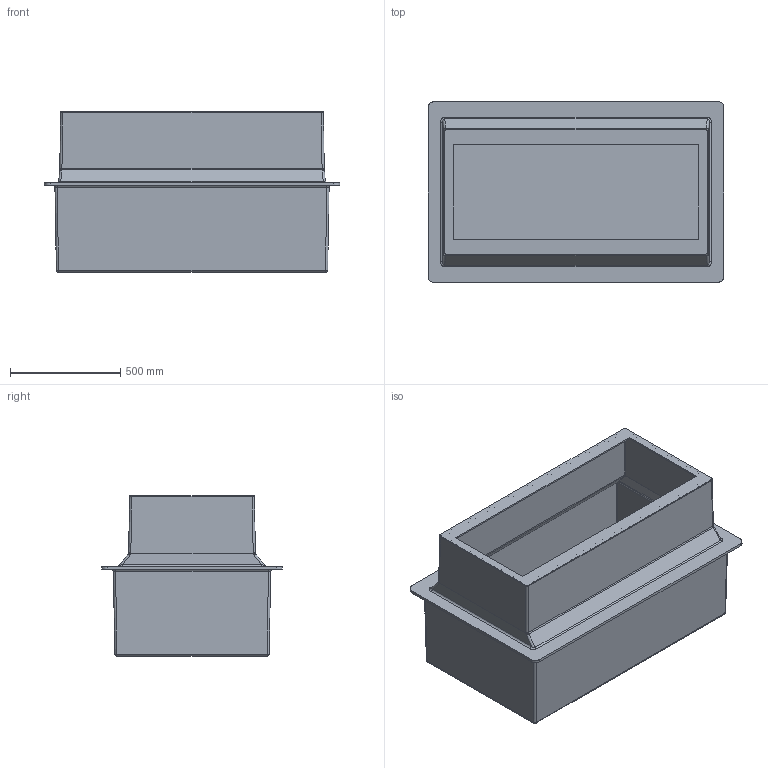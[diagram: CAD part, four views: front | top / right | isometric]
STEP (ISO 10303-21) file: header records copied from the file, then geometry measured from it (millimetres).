
FILE_DESCRIPTION (( 'STEP AP214' ), '1' );
FILE_NAME ('KP_DC1230.step', '2012-10-04T09:36:22', ( 'robinj' ), ( 'Microsoft' ), 'SwSTEP 2.0', 'SolidWorks 2012', '' );
FILE_SCHEMA (( 'AUTOMOTIVE_DESIGN' ));
Length unit declared in the file: millimetre
Products named in the file (1): KP_DC1230
Bounding box: 1341.18 x 820.18 x 728 mm (x, y, z)
Volume: 29127374.7 mm3; surface area: 8436874.2 mm2
Topology: 2 solids, 2 shells, 227 faces, 520 edges, 312 vertices
Faces by surface type: cylinder 80, plane 71, bspline 68, sphere 8
Entity records: 11137 total; most frequent: CARTESIAN_POINT 4132, ORIENTED_EDGE 1040, DIRECTION 832, EDGE_CURVE 520, VERTEX_POINT 312, AXIS2_PLACEMENT_3D 296, EDGE_LOOP 244, LINE 240
